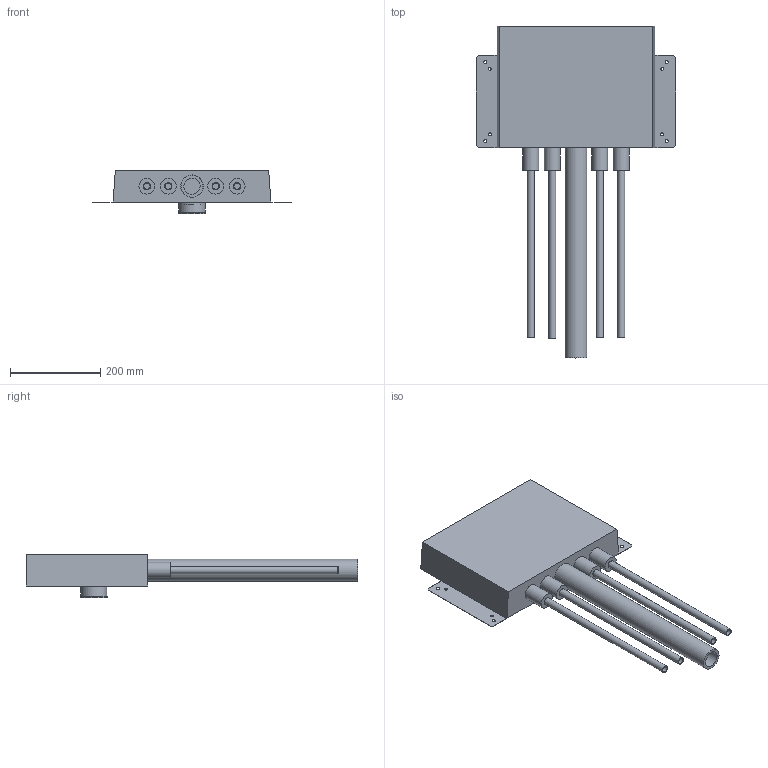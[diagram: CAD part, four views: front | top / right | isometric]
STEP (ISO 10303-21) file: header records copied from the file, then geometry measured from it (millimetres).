
FILE_DESCRIPTION(/* description */ (''),/* implementation_level */ '2;1');
FILE_NAME(/* name */ '\\LG50011\SANHA_Legnica\Engineering\Public\PROJEKTY\SANHA-BOX_Support_BiR\002-Rysunki_Boxów\25-WTZ-T\Zespół-325WTZT16.stp',/* time_stamp */ '2018-11-05T14:35:11+01:00',/* author */ ('gomulka'),/* organization */ (''),/* preprocessor_version */ 'ST-DEVELOPER v16.13',/* originating_system */ 'Autodesk Inventor 2018',/* authorisation */ '');
FILE_SCHEMA (('AUTOMOTIVE_DESIGN { 1 0 10303 214 3 1 1 }'));
Length unit declared in the file: millimetre
Products named in the file (6): Zespół-325WTZT16; Rura_50; Plyta1; Rura_16x2; Kolano_DN50-OD50_Master3; 325WTZT16
Assembly tree (9 placements, depth 2):
  Zespół-325WTZT16
    Rura_50
    Rura_16x2  x4
    Plyta1  x2
    Kolano_DN50-OD50_Master3
    325WTZT16
Bounding box: 442 x 735.9 x 95.64 mm (x, y, z)
Volume: 7148188.1 mm3; surface area: 704467.5 mm2
Topology: 9 solids, 9 shells, 168 faces, 373 edges, 248 vertices
Faces by surface type: plane 111, cylinder 38, bspline 16, cone 3
Full cylindrical faces by diameter (mm): 6.1 x4, 7 x4, 14 x4, 16 x8, 18.631 x2, 21 x2, 30 x1, 35 x4, 35.993 x1, 48.5 x1, 50 x1, 52.269 x1, 54 x1, 55 x2, 58 x1, 60 x1
Entity records: 4240 total; most frequent: CARTESIAN_POINT 873, DIRECTION 604, ORIENTED_EDGE 584, EDGE_CURVE 292, EDGE_LOOP 214, VERTEX_POINT 214, LINE 202, VECTOR 202
